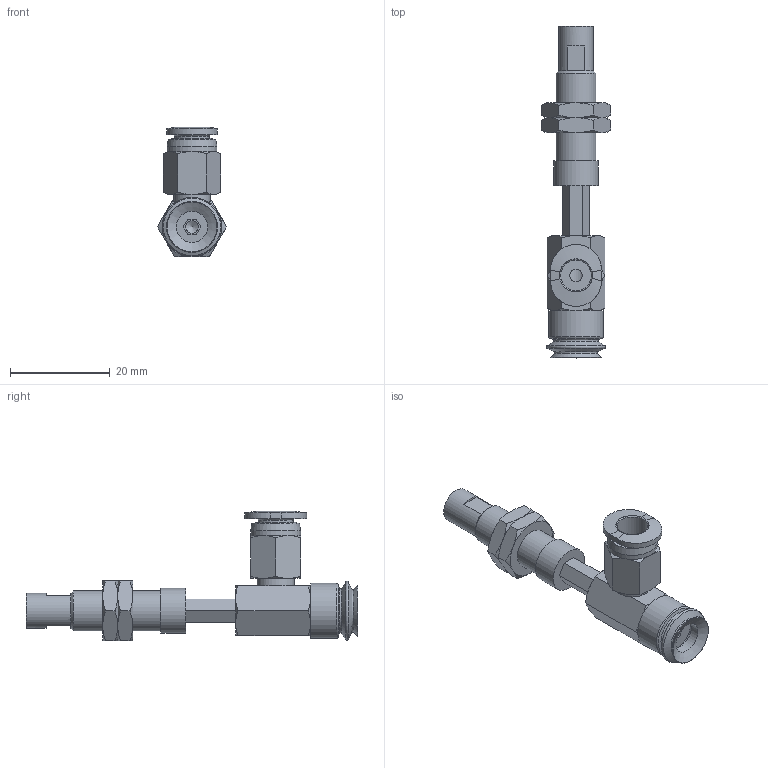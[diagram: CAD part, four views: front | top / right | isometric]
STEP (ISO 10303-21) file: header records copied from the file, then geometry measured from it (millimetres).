
FILE_DESCRIPTION(('STEP AP203'),'1');
FILE_NAME('-O.stp','2025-04-24T06:32:12',(' '),(' '),'Spatial InterOp 3D',' ',' ');
FILE_SCHEMA(('CONFIG_CONTROL_DESIGN'));
Length unit declared in the file: millimetre
Products named in the file (8): BNABPJYH-10-10-※-O; Adapter-10-NAPJ; CONNECTOR_H-10-10; NAPJH-10-10-NUT; NAPJTH-10-10-FBODY; NAPJTH-10-10-MBODY; BPJG-10-※; PC-C_06-M5
Assembly tree (8 placements, depth 2):
  BNABPJYH-10-10-※-O
    Adapter-10-NAPJ
    CONNECTOR_H-10-10
    NAPJH-10-10-NUT  x2
    NAPJTH-10-10-FBODY
    NAPJTH-10-10-MBODY
    BPJG-10-※
    PC-C_06-M5
Bounding box: 13.86 x 66.5 x 25.98 mm (x, y, z)
Volume: 4054.5 mm3; surface area: 5675.3 mm2
Topology: 7 solids, 10 shells, 200 faces, 429 edges, 262 vertices
Faces by surface type: plane 87, cone 72, cylinder 25, torus 9, bspline 4, revolution 3
Full cylindrical faces by diameter (mm): 2.5 x1, 4 x2, 4.134 x3, 4.6 x1, 5 x3, 6.266 x1, 7 x2, 7.188 x2, 7.4 x1, 7.8 x1, 8 x2, 8.2 x1, 9 x1, 10 x1, 11 x1
Entity records: 5412 total; most frequent: CARTESIAN_POINT 1558, DIRECTION 713, ORIENTED_EDGE 626, EDGE_CURVE 315, AXIS2_PLACEMENT_3D 299, EDGE_LOOP 256, VERTEX_POINT 222, FACE_OUTER_BOUND 148
